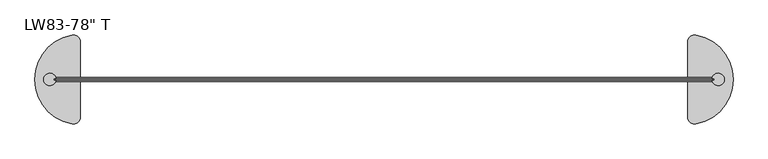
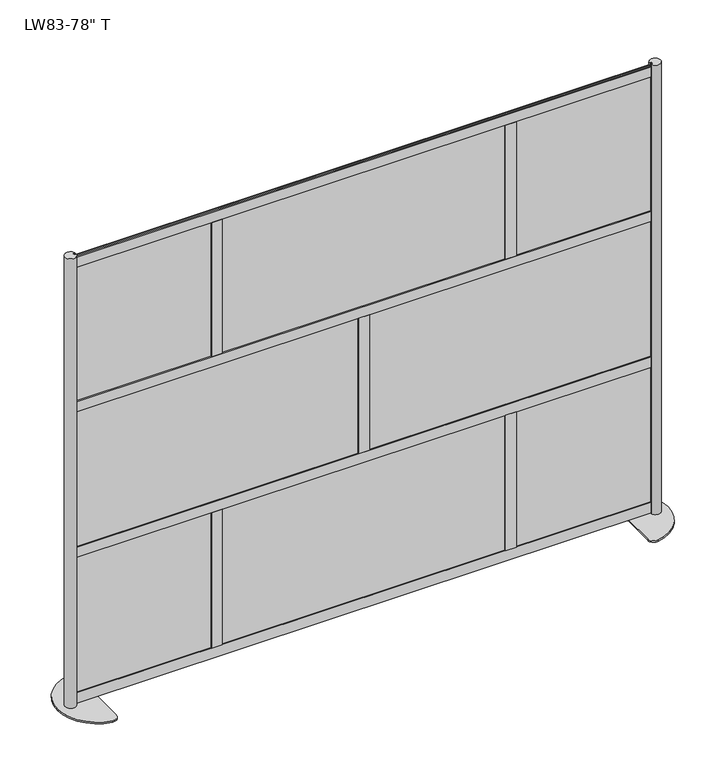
"""IFC4 building model written with IfcOpenShell, lengths in millimetres: furniture geometry."""

from ifc_helpers import new_model, si_unit, point, frame, frame_2d, origin, origin_with_axes, place, context, project, spatial, polyline, circle_curve, trimmed, segment, composite_curve, outline, extrude, source, transform, mapped, element, save


def furniture_55c42a93(model_context):
    return source(origin(), model_context, "Body", "SweptSolid", [
        extrude(outline(polyline([(596.8955274, -1.5875), (-592.1419726, -1.5875), (-592.1419726, 1.5875), (596.8955274, 1.5875), (596.8955274, -1.5875)])), frame((0.0, 0.0, 49.2633), z_axis=(0.0, 0.0, 1.0), x_axis=(1.0, 0.0, 0.0)), (0.0, 0.0, 1.0), 608.965),
        extrude(outline(polyline([(596.8955274, -1.5875), (-592.1419726, -1.5875), (-592.1419726, 1.5875), (596.8955274, 1.5875), (596.8955274, -1.5875)])), frame((0.0, 0.0, 1329.2709), z_axis=(0.0, 0.0, 1.0), x_axis=(1.0, 0.0, 0.0)), (0.0, 0.0, 1.0), 608.965),
        extrude(outline(polyline([(1208.4321897, -1.5875), (19.3946897, -1.5875), (19.3946897, 1.5875), (1208.4321897, 1.5875), (1208.4321897, -1.5875)])), frame((0.0, 0.0, 689.2671), z_axis=(0.0, 0.0, 1.0), x_axis=(1.0, 0.0, 0.0)), (0.0, 0.0, 1.0), 608.965),
        extrude(outline(polyline([(-14.6411349, -1.5875), (-1203.6786349, -1.5875), (-1203.6786349, 1.5875), (-14.6411349, 1.5875), (-14.6411349, -1.5875)])), frame((0.0, 0.0, 689.2671), z_axis=(0.0, 0.0, 1.0), x_axis=(1.0, 0.0, 0.0)), (0.0, 0.0, 1.0), 608.965),
        extrude(outline(polyline([(625.9190822, 1.5875), (1203.769083, 1.5875), (1203.7689093, -1.5875), (625.9189085, -1.5875), (625.9190822, 1.5875)])), frame((0.0, 0.0, 49.2633), z_axis=(0.0, 0.0, 1.0), x_axis=(1.0, 0.0, 0.0)), (0.0, 0.0, 1.0), 608.965),
        extrude(outline(polyline([(625.9190822, 1.5875), (1203.769083, 1.5875), (1203.7689093, -1.5875), (625.9189085, -1.5875), (625.9190822, 1.5875)])), frame((0.0, 0.0, 1329.2709), z_axis=(0.0, 0.0, 1.0), x_axis=(1.0, 0.0, 0.0)), (0.0, 0.0, 1.0), 608.965),
        extrude(outline(polyline([(-1202.9125801, 1.5875), (-625.0625793, 1.5875), (-625.0627529, -1.5875), (-1202.9127538, -1.5875), (-1202.9125801, 1.5875)])), frame((0.0, 0.0, 1329.2709), z_axis=(0.0, 0.0, 1.0), x_axis=(1.0, 0.0, 0.0)), (0.0, 0.0, 1.0), 608.965),
        extrude(outline(polyline([(-1202.9125801, 1.5875), (-625.0625793, 1.5875), (-625.0627529, -1.5875), (-1202.9127538, -1.5875), (-1202.9125801, 1.5875)])), frame((0.0, 0.0, 49.2633), z_axis=(0.0, 0.0, 1.0), x_axis=(1.0, 0.0, 0.0)), (0.0, 0.0, 1.0), 608.965),
        extrude(outline(polyline([(22.6314, 3.556), (15.5194, 3.556), (15.5194, -3.556), (22.6314, -3.556), (22.6314, -7.6327), (-22.6314, -7.6327), (-22.6314, -3.556), (-15.5194, -3.556), (-15.5194, 3.556), (-22.6314, 3.556), (-22.6314, 7.6327), (22.6314, 7.6327), (22.6314, 3.556)])), frame((0.0, 0.0, 696.3791), z_axis=(0.0, 0.0, 1.0), x_axis=(1.0, 0.0, 0.0)), (0.0, 0.0, 1.0), 594.741),
        extrude(outline(polyline([(634.1680623, 3.556), (627.0560623, 3.556), (627.0560623, -3.556), (634.1680623, -3.556), (634.1680623, -7.6327), (588.9052623, -7.6327), (588.9052623, -3.556), (596.0172623, -3.556), (596.0172623, 3.556), (588.9052623, 3.556), (588.9052623, 7.6327), (634.1680623, 7.6327), (634.1680623, 3.556)])), frame((0.0, 0.0, 56.3753), z_axis=(0.0, 0.0, 1.0), x_axis=(1.0, 0.0, 0.0)), (0.0, 0.0, 1.0), 594.741),
        extrude(outline(polyline([(634.1680623, 3.556), (627.0560623, 3.556), (627.0560623, -3.556), (634.1680623, -3.556), (634.1680623, -7.6327), (588.9052623, -7.6327), (588.9052623, -3.556), (596.0172623, -3.556), (596.0172623, 3.556), (588.9052623, 3.556), (588.9052623, 7.6327), (634.1680623, 7.6327), (634.1680623, 3.556)])), frame((0.0, 0.0, 1336.3829), z_axis=(0.0, 0.0, 1.0), x_axis=(1.0, 0.0, 0.0)), (0.0, 0.0, 1.0), 589.75625),
        extrude(outline(polyline([(-634.1680623, 3.556), (-634.1680623, 7.6327), (-588.9052623, 7.6327), (-588.9052623, 3.556), (-596.0172623, 3.556), (-596.0172623, -3.556), (-588.9052623, -3.556), (-588.9052623, -7.6327), (-634.1680623, -7.6327), (-634.1680623, -3.556), (-627.0560623, -3.556), (-627.0560623, 3.556), (-634.1680623, 3.556)])), frame((0.0, 0.0, 1336.3829), z_axis=(0.0, 0.0, 1.0), x_axis=(1.0, 0.0, 0.0)), (0.0, 0.0, 1.0), 589.75625),
        extrude(outline(polyline([(-634.1680623, 3.556), (-634.1680623, 7.6327), (-588.9052623, 7.6327), (-588.9052623, 3.556), (-596.0172623, 3.556), (-596.0172623, -3.556), (-588.9052623, -3.556), (-588.9052623, -7.6327), (-634.1680623, -7.6327), (-634.1680623, -3.556), (-627.0560623, -3.556), (-627.0560623, 3.556), (-634.1680623, 3.556)])), frame((0.0, 0.0, 56.3753), z_axis=(0.0, 0.0, 1.0), x_axis=(1.0, 0.0, 0.0)), (0.0, 0.0, 1.0), 594.741),
        extrude(outline(polyline([(3.556, 651.1163), (3.556, 658.2283), (-3.556, 658.2283), (-3.556, 651.1163), (-7.6327, 651.1163), (-7.6327, 696.3791), (-3.556, 696.3791), (-3.556, 689.2671), (3.556, 689.2671), (3.556, 696.3791), (7.6327, 696.3791), (7.6327, 651.1163), (3.556, 651.1163)])), frame((-1194.5874, 0.0, 0.0), z_axis=(1.0, 0.0, 0.0), x_axis=(0.0, 1.0, 0.0)), (0.0, 0.0, 1.0), 2389.1748),
        extrude(outline(polyline([(3.556, 1291.1201), (3.556, 1298.2321), (-3.556, 1298.2321), (-3.556, 1291.1201), (-7.6327, 1291.1201), (-7.6327, 1336.3829), (-3.556, 1336.3829), (-3.556, 1329.2709), (3.556, 1329.2709), (3.556, 1336.3829), (7.6327, 1336.3829), (7.6327, 1291.1201), (3.556, 1291.1201)])), frame((-1194.5874, 0.0, 0.0), z_axis=(1.0, 0.0, 0.0), x_axis=(0.0, 1.0, 0.0)), (0.0, 0.0, 1.0), 2389.1748),
        extrude(outline(polyline([(3.556, 11.1125), (3.556, 18.2245), (-3.556, 18.2245), (-3.556, 11.1125), (-7.6327, 11.1125), (-7.6327, 56.3753), (-3.556, 56.3753), (-3.556, 49.2633), (3.556, 49.2633), (3.556, 56.3753), (7.6327, 56.3753), (7.6327, 11.1125), (3.556, 11.1125)])), frame((-1194.6636, 0.0, 0.0), z_axis=(1.0, 0.0, 0.0), x_axis=(0.0, 1.0, 0.0)), (0.0, 0.0, 1.0), 2389.3272),
        extrude(outline(polyline([(3.556, 1926.1200292), (3.556, 1933.2320292), (-3.556, 1933.2320292), (-3.556, 1926.1200292), (-7.6327, 1926.1200292), (-7.6327, 1971.3828292), (-3.556, 1971.3828292), (-3.556, 1964.2708292), (3.556, 1964.2708292), (3.556, 1971.3828292), (7.6327, 1971.3828292), (7.6327, 1926.1200292), (3.556, 1926.1200292)])), frame((-1194.6636, 0.0, 0.0), z_axis=(1.0, 0.0, 0.0), x_axis=(0.0, 1.0, 0.0)), (0.0, 0.0, 1.0), 2389.3272),
        extrude(outline(composite_curve([segment(polyline([(1194.6636, -7.7568093), (1194.6636, -3.556), (1201.7756, -3.556), (1201.7756, 3.556), (1194.6636, 3.556), (1194.6636, 7.7568093)]), True, "CONTINUOUS"), segment(trimmed(circle_curve(frame_2d((1215.7665837, 0.0)), 22.4834163), [point((1194.6636, 7.7568093))], [point((1194.6636, -7.7568093))], False, "CARTESIAN"), True, "CONTINUOUS")], self_intersect=False)), frame((0.0, 0.0, 6.35), z_axis=(0.0, 0.0, 1.0), x_axis=(1.0, 0.0, 0.0)), (0.0, 0.0, 1.0), 1974.85),
        extrude(outline(composite_curve([segment(polyline([(1104.9, -137.3715036), (1104.9, 137.3715036)]), True, "CONTINUOUS"), segment(trimmed(circle_curve(frame_2d((1130.3, 137.3715036)), 25.4), [point((1104.9, 137.3715036))], [point((1134.9181818, 162.3481406))], False, "CARTESIAN"), True, "CONTINUOUS"), segment(trimmed(circle_curve(frame_2d((1104.9, 0.0)), 165.1), [point((1134.9181818, 162.3481406))], [point((1270.0, 0.0))], False, "CARTESIAN"), True, "CONTINUOUS"), segment(trimmed(circle_curve(frame_2d((1104.9, 0.0)), 165.1), [point((1270.0, 0.0))], [point((1134.9181818, -162.3481406))], False, "CARTESIAN"), True, "CONTINUOUS"), segment(trimmed(circle_curve(frame_2d((1130.3, -137.3715036)), 25.4), [point((1134.9181818, -162.3481406))], [point((1104.9, -137.3715036))], False, "CARTESIAN"), True, "CONTINUOUS")], self_intersect=False)), origin_with_axes(), (0.0, 0.0, 1.0), 6.35),
        extrude(outline(composite_curve([segment(trimmed(circle_curve(frame_2d((-1215.7665837, 0.0)), 22.4834163), [point((-1194.6636, -7.7568093))], [point((-1194.6636, 7.7568093))], False, "CARTESIAN"), True, "CONTINUOUS"), segment(polyline([(-1194.6636, 7.7568093), (-1194.6636, 3.556), (-1201.7756, 3.556), (-1201.7756, -3.556), (-1194.6636, -3.556), (-1194.6636, -7.7568093)]), True, "CONTINUOUS")], self_intersect=False)), frame((0.0, 0.0, 6.35), z_axis=(0.0, 0.0, 1.0), x_axis=(1.0, 0.0, 0.0)), (0.0, 0.0, 1.0), 1974.85),
        extrude(outline(composite_curve([segment(trimmed(circle_curve(frame_2d((-1130.3, -137.3715036)), 25.4), [point((-1104.9, -137.3715036))], [point((-1134.9181818, -162.3481406))], False, "CARTESIAN"), True, "CONTINUOUS"), segment(trimmed(circle_curve(frame_2d((-1104.9, 0.0)), 165.1), [point((-1134.9181818, -162.3481406))], [point((-1270.0, 0.0))], False, "CARTESIAN"), True, "CONTINUOUS"), segment(trimmed(circle_curve(frame_2d((-1104.9, 0.0)), 165.1), [point((-1270.0, 0.0))], [point((-1134.9181818, 162.3481406))], False, "CARTESIAN"), True, "CONTINUOUS"), segment(trimmed(circle_curve(frame_2d((-1130.3, 137.3715036)), 25.4), [point((-1134.9181818, 162.3481406))], [point((-1104.9, 137.3715036))], False, "CARTESIAN"), True, "CONTINUOUS"), segment(polyline([(-1104.9, 137.3715036), (-1104.9, -137.3715036)]), True, "CONTINUOUS")], self_intersect=False)), origin_with_axes(), (0.0, 0.0, 1.0), 6.35),
    ])


if __name__ == "__main__":
    model = new_model("IFC4")
    model_context = context("Model", 3, world=origin())
    ifc_project = project(units=[si_unit("LENGTHUNIT", "METRE", prefix="MILLI")], contexts=[model_context])
    site = spatial("IfcSite", under=ifc_project)
    building = spatial("IfcBuilding", under=site)
    placement = place(None, origin())
    furniture_shape = furniture_55c42a93(model_context)
    element("IfcFurniture", 1, ObjectType="Loft_Wall-Framewall-100 : LW83-78\" T", at=placement, inside=building, context=model_context, shape_type="MappedRepresentation", body=[
        mapped(furniture_shape, transform((0.0, 0.0, 0.0), x_axis=(1.0, 0.0, 0.0), y_axis=(0.0, 1.0, 0.0), z_axis=(0.0, 0.0, 1.0))),
    ])
    save(model, "model.ifc")
